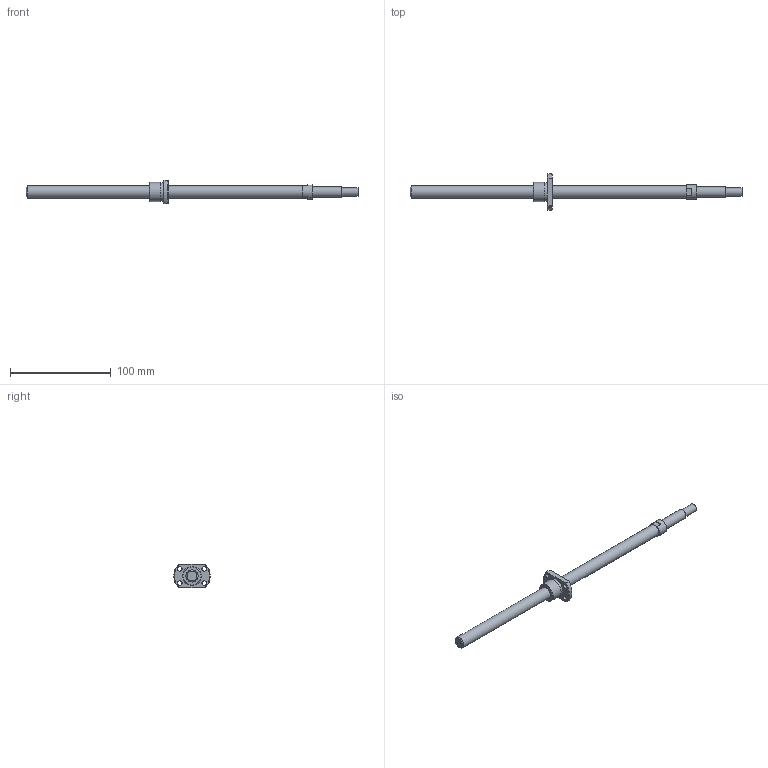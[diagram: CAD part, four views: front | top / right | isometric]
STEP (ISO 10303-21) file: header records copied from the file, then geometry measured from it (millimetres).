
FILE_DESCRIPTION(/* description */ ('STEP AP214'),/* implementation_level */ '2;1');
FILE_NAME(/* name */ 'SRT1202K-271R330C7A0X(A122.50X)',/* time_stamp */ '2026-08-06T15:12:51+02:00',/* author */ ('License CC BY-ND 4.0'),/* organization */ ('CADENAS'),/* preprocessor_version */ 'ST-DEVELOPER v20',/* originating_system */ 'PARTsolutions',/* authorisation */ ' ');
FILE_SCHEMA (('AUTOMOTIVE_DESIGN {1 0 10303 214 3 1 1}'));
Length unit declared in the file: millimetre
Products named in the file (3): SRT1202K-271R330C7A0X(A122.50X); 11AProcessing330; SR1202K_nut
Assembly tree (2 placements, depth 2):
  SRT1202K-271R330C7A0X(A122.50X)
    11AProcessing330
    SR1202K_nut
Bounding box: 330 x 36 x 23 mm (x, y, z)
Volume: 40953.6 mm3; surface area: 15894.6 mm2
Topology: 2 solids, 2 shells, 36 faces, 78 edges, 50 vertices
Faces by surface type: plane 16, cylinder 13, cone 7
Full cylindrical faces by diameter (mm): 4.5 x4, 8 x1, 10 x1, 12 x2, 14 x1, 18.6 x1, 19 x1
Entity records: 1015 total; most frequent: CARTESIAN_POINT 175, DIRECTION 170, ORIENTED_EDGE 126, AXIS2_PLACEMENT_3D 76, EDGE_LOOP 64, FACE_BOUND 64, EDGE_CURVE 63, VERTEX_POINT 49
